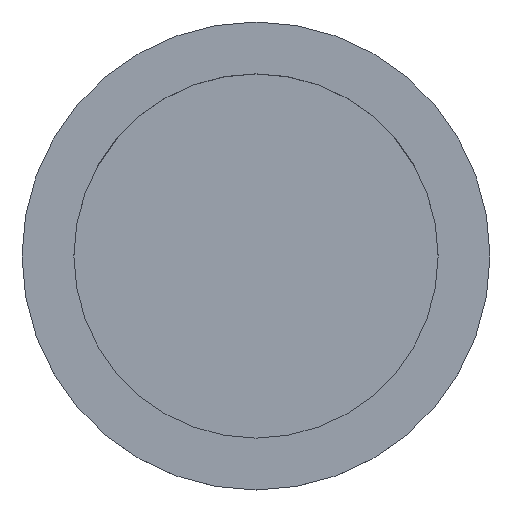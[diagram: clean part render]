
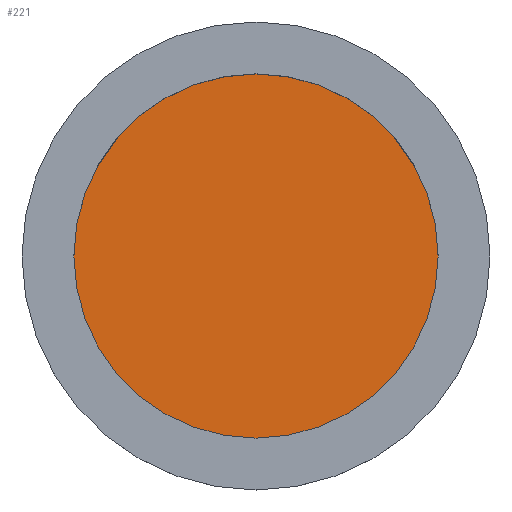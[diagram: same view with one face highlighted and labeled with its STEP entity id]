
A CAD part, top view. The second image highlights one B-rep face of the part: STEP entity #221.
In plain terms, the highlighted planar face has unit normal (0, 0, 1).
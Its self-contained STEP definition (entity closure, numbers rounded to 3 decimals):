
#190=CARTESIAN_POINT('',(68.5,0.,7.));
#191=VERTEX_POINT('',#190);
#192=CARTESIAN_POINT('',(0.0,0.0,7.));
#193=DIRECTION('',(0.0,0.0,1.0));
#194=DIRECTION('',(-1.0,0.0,0.0));
#195=AXIS2_PLACEMENT_3D('',#192,#193,#194);
#196=CIRCLE('',#195,68.5);
#197=EDGE_CURVE('',#191,#191,#196,.T.);
#213=CARTESIAN_POINT('',(0.0,0.0,7.));
#214=DIRECTION('',(0.0,0.0,-1.0));
#215=DIRECTION('',(-1.0,0.0,0.0));
#216=AXIS2_PLACEMENT_3D('',#213,#214,#215);
#217=PLANE('',#216);
#218=ORIENTED_EDGE('',*,*,#197,.T.);
#219=EDGE_LOOP('',(#218));
#220=FACE_OUTER_BOUND('',#219,.T.);
#221=ADVANCED_FACE('',(#220),#217,.F.);
